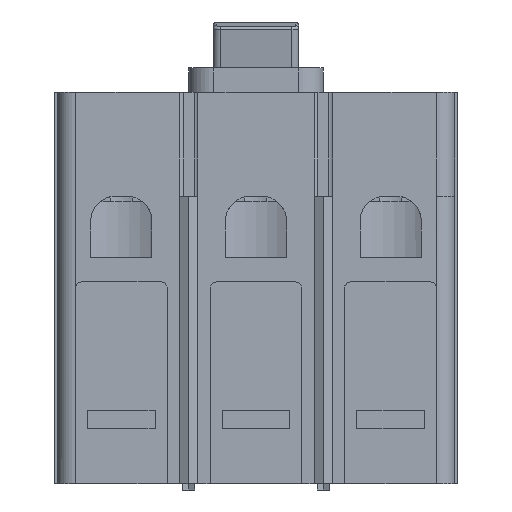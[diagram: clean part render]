
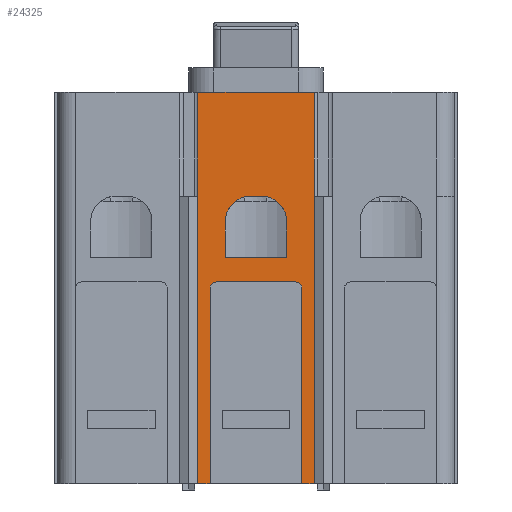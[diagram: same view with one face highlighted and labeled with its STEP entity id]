
A CAD part, front view. The second image highlights one B-rep face of the part: STEP entity #24325.
In plain terms, the highlighted planar face has unit normal (0, -1, 0).
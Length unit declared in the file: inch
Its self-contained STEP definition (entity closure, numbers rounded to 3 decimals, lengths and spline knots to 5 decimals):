
#3081=CARTESIAN_POINT('',(-3.7495,-22.9187,-6.677));
#3082=VERTEX_POINT('',#3081);
#3089=CARTESIAN_POINT('',(-3.9995,-22.9187,-6.427));
#3090=VERTEX_POINT('',#3089);
#3091=CARTESIAN_POINT('',(-3.9995,-22.9187,-6.677));
#3092=DIRECTION('',(0.0,1.0,0.0));
#3093=DIRECTION('',(1.0,0.0,0.0));
#3094=AXIS2_PLACEMENT_3D('',#3091,#3092,#3093);
#3095=CIRCLE('',#3094,0.25);
#3096=EDGE_CURVE('',#3090,#3082,#3095,.T.);
#3203=CARTESIAN_POINT('',(-3.7495,-22.9187,-7.052));
#3204=VERTEX_POINT('',#3203);
#3211=CARTESIAN_POINT('',(-3.7495,-22.9187,-6.677));
#3212=DIRECTION('',(0.0,0.0,-1.0));
#3213=VECTOR('',#3212,0.375);
#3214=LINE('',#3211,#3213);
#3215=EDGE_CURVE('',#3082,#3204,#3214,.T.);
#3311=CARTESIAN_POINT('',(-4.1245,-22.9187,-6.427));
#3312=VERTEX_POINT('',#3311);
#3319=CARTESIAN_POINT('',(-4.3745,-22.9187,-6.677));
#3320=VERTEX_POINT('',#3319);
#3321=CARTESIAN_POINT('',(-4.1245,-22.9187,-6.677));
#3322=DIRECTION('',(0.0,1.0,0.0));
#3323=DIRECTION('',(0.0,0.0,1.0));
#3324=AXIS2_PLACEMENT_3D('',#3321,#3322,#3323);
#3325=CIRCLE('',#3324,0.25);
#3326=EDGE_CURVE('',#3320,#3312,#3325,.T.);
#3356=CARTESIAN_POINT('',(-4.3745,-22.9187,-7.052));
#3357=VERTEX_POINT('',#3356);
#3358=CARTESIAN_POINT('',(-4.3745,-22.9187,-7.052));
#3359=DIRECTION('',(0.0,0.0,1.0));
#3360=VECTOR('',#3359,0.375);
#3361=LINE('',#3358,#3360);
#3362=EDGE_CURVE('',#3357,#3320,#3361,.T.);
#3482=CARTESIAN_POINT('',(-3.7495,-22.9187,-7.052));
#3483=DIRECTION('',(-1.0,0.0,0.0));
#3484=VECTOR('',#3483,0.625);
#3485=LINE('',#3482,#3484);
#3486=EDGE_CURVE('',#3204,#3357,#3485,.T.);
#10763=CARTESIAN_POINT('',(-3.469,-22.9187,-6.427));
#10764=VERTEX_POINT('',#10763);
#10773=CARTESIAN_POINT('',(-3.4685,-22.9187,-6.427));
#10774=VERTEX_POINT('',#10773);
#10781=CARTESIAN_POINT('',(-3.4685,-22.9187,-6.427));
#10782=DIRECTION('',(-1.0,0.0,0.0));
#10783=VECTOR('',#10782,0.0005);
#10784=LINE('',#10781,#10783);
#10785=EDGE_CURVE('',#10774,#10764,#10784,.T.);
#10803=CARTESIAN_POINT('',(-4.1245,-22.9187,-6.427));
#10804=DIRECTION('',(1.0,0.0,0.0));
#10805=VECTOR('',#10804,0.125);
#10806=LINE('',#10803,#10805);
#10807=EDGE_CURVE('',#3312,#3090,#10806,.T.);
#10907=CARTESIAN_POINT('',(-4.6555,-22.9187,-6.427));
#10908=VERTEX_POINT('',#10907);
#10917=CARTESIAN_POINT('',(-4.6555,-22.9187,-5.365));
#10918=VERTEX_POINT('',#10917);
#10919=CARTESIAN_POINT('',(-4.6555,-22.9187,-6.427));
#10920=DIRECTION('',(0.0,0.0,1.0));
#10921=VECTOR('',#10920,1.062);
#10922=LINE('',#10919,#10921);
#10923=EDGE_CURVE('',#10908,#10918,#10922,.T.);
#11381=CARTESIAN_POINT('',(-3.4685,-22.9187,-5.365));
#11382=VERTEX_POINT('',#11381);
#11383=CARTESIAN_POINT('',(-3.4685,-22.9187,-5.365));
#11384=DIRECTION('',(-1.0,0.0,0.0));
#11385=VECTOR('',#11384,1.187);
#11386=LINE('',#11383,#11385);
#11387=EDGE_CURVE('',#11382,#10918,#11386,.T.);
#16798=CARTESIAN_POINT('',(-3.4685,-22.9187,-6.427));
#16799=DIRECTION('',(0.0,0.0,1.0));
#16800=VECTOR('',#16799,1.062);
#16801=LINE('',#16798,#16800);
#16802=EDGE_CURVE('',#10774,#11382,#16801,.T.);
#18479=CARTESIAN_POINT('',(-4.656,-22.9187,-6.427));
#18480=VERTEX_POINT('',#18479);
#18487=CARTESIAN_POINT('',(-4.6555,-22.9187,-6.427));
#18488=DIRECTION('',(-1.0,0.0,0.0));
#18489=VECTOR('',#18488,0.0005);
#18490=LINE('',#18487,#18489);
#18491=EDGE_CURVE('',#10908,#18480,#18490,.T.);
#19374=CARTESIAN_POINT('',(-3.469,-22.9187,-9.365));
#19375=VERTEX_POINT('',#19374);
#19382=CARTESIAN_POINT('',(-3.594,-22.9187,-9.365));
#19383=VERTEX_POINT('',#19382);
#19384=CARTESIAN_POINT('',(-3.469,-22.9187,-9.365));
#19385=DIRECTION('',(-1.0,0.0,0.0));
#19386=VECTOR('',#19385,0.125);
#19387=LINE('',#19384,#19386);
#19388=EDGE_CURVE('',#19375,#19383,#19387,.T.);
#19406=CARTESIAN_POINT('',(-4.532,-22.9187,-9.365));
#19407=VERTEX_POINT('',#19406);
#19414=CARTESIAN_POINT('',(-4.656,-22.9187,-9.365));
#19415=VERTEX_POINT('',#19414);
#19416=CARTESIAN_POINT('',(-4.532,-22.9187,-9.365));
#19417=DIRECTION('',(-1.0,0.0,0.0));
#19418=VECTOR('',#19417,0.124);
#19419=LINE('',#19416,#19418);
#19420=EDGE_CURVE('',#19407,#19415,#19419,.T.);
#24164=CARTESIAN_POINT('',(-3.656,-22.9187,-7.302));
#24165=VERTEX_POINT('',#24164);
#24172=CARTESIAN_POINT('',(-4.47,-22.9187,-7.302));
#24173=VERTEX_POINT('',#24172);
#24174=CARTESIAN_POINT('',(-3.656,-22.9187,-7.302));
#24175=DIRECTION('',(-1.0,0.0,0.0));
#24176=VECTOR('',#24175,0.814);
#24177=LINE('',#24174,#24176);
#24178=EDGE_CURVE('',#24165,#24173,#24177,.T.);
#24197=CARTESIAN_POINT('',(-4.532,-22.9187,-7.364));
#24198=VERTEX_POINT('',#24197);
#24199=CARTESIAN_POINT('',(-4.47,-22.9187,-7.364));
#24200=DIRECTION('',(0.0,-1.0,0.0));
#24201=DIRECTION('',(0.0,0.0,1.0));
#24202=AXIS2_PLACEMENT_3D('',#24199,#24200,#24201);
#24203=CIRCLE('',#24202,0.062);
#24204=EDGE_CURVE('',#24173,#24198,#24203,.T.);
#24268=CARTESIAN_POINT('',(-2.,-22.9187,-6.427));
#24269=DIRECTION('',(0.0,-1.0,0.0));
#24270=DIRECTION('',(0.0,0.0,-1.0));
#24271=AXIS2_PLACEMENT_3D('',#24268,#24269,#24270);
#24272=PLANE('',#24271);
#24273=CARTESIAN_POINT('',(-3.594,-22.9187,-7.364));
#24274=VERTEX_POINT('',#24273);
#24275=CARTESIAN_POINT('',(-3.594,-22.9187,-9.365));
#24276=DIRECTION('',(0.0,0.0,1.0));
#24277=VECTOR('',#24276,2.001);
#24278=LINE('',#24275,#24277);
#24279=EDGE_CURVE('',#19383,#24274,#24278,.T.);
#24280=ORIENTED_EDGE('',*,*,#24279,.F.);
#24281=ORIENTED_EDGE('',*,*,#19388,.F.);
#24282=CARTESIAN_POINT('',(-3.469,-22.9187,-6.427));
#24283=DIRECTION('',(0.0,0.0,-1.0));
#24284=VECTOR('',#24283,2.938);
#24285=LINE('',#24282,#24284);
#24286=EDGE_CURVE('',#10764,#19375,#24285,.T.);
#24287=ORIENTED_EDGE('',*,*,#24286,.F.);
#24288=ORIENTED_EDGE('',*,*,#10785,.F.);
#24289=ORIENTED_EDGE('',*,*,#16802,.T.);
#24290=ORIENTED_EDGE('',*,*,#11387,.T.);
#24291=ORIENTED_EDGE('',*,*,#10923,.F.);
#24292=ORIENTED_EDGE('',*,*,#18491,.T.);
#24293=CARTESIAN_POINT('',(-4.656,-22.9187,-6.427));
#24294=DIRECTION('',(0.0,0.0,-1.0));
#24295=VECTOR('',#24294,2.938);
#24296=LINE('',#24293,#24295);
#24297=EDGE_CURVE('',#18480,#19415,#24296,.T.);
#24298=ORIENTED_EDGE('',*,*,#24297,.T.);
#24299=ORIENTED_EDGE('',*,*,#19420,.F.);
#24300=CARTESIAN_POINT('',(-4.532,-22.9187,-9.365));
#24301=DIRECTION('',(0.0,0.0,1.0));
#24302=VECTOR('',#24301,2.001);
#24303=LINE('',#24300,#24302);
#24304=EDGE_CURVE('',#19407,#24198,#24303,.T.);
#24305=ORIENTED_EDGE('',*,*,#24304,.T.);
#24306=ORIENTED_EDGE('',*,*,#24204,.F.);
#24307=ORIENTED_EDGE('',*,*,#24178,.F.);
#24308=CARTESIAN_POINT('',(-3.656,-22.9187,-7.364));
#24309=DIRECTION('',(0.0,-1.0,0.0));
#24310=DIRECTION('',(1.0,0.0,0.0));
#24311=AXIS2_PLACEMENT_3D('',#24308,#24309,#24310);
#24312=CIRCLE('',#24311,0.062);
#24313=EDGE_CURVE('',#24274,#24165,#24312,.T.);
#24314=ORIENTED_EDGE('',*,*,#24313,.F.);
#24315=EDGE_LOOP('',(#24280,#24281,#24287,#24288,#24289,#24290,#24291,#24292,#24298,#24299,#24305,#24306,#24307,#24314));
#24316=FACE_OUTER_BOUND('',#24315,.T.);
#24317=ORIENTED_EDGE('',*,*,#3215,.T.);
#24318=ORIENTED_EDGE('',*,*,#3486,.T.);
#24319=ORIENTED_EDGE('',*,*,#3362,.T.);
#24320=ORIENTED_EDGE('',*,*,#3326,.T.);
#24321=ORIENTED_EDGE('',*,*,#10807,.T.);
#24322=ORIENTED_EDGE('',*,*,#3096,.T.);
#24323=EDGE_LOOP('',(#24317,#24318,#24319,#24320,#24321,#24322));
#24324=FACE_BOUND('',#24323,.T.);
#24325=ADVANCED_FACE('',(#24316,#24324),#24272,.T.);
